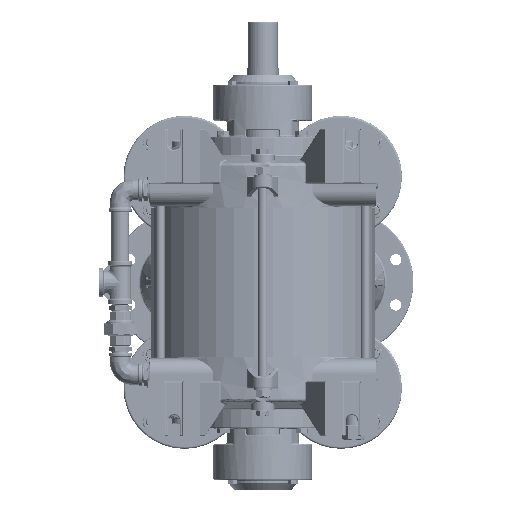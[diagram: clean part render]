
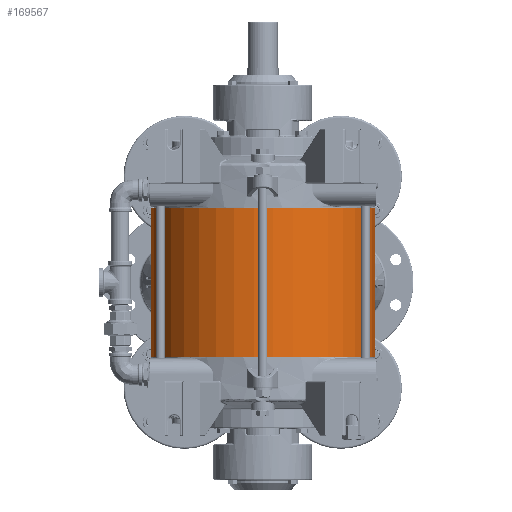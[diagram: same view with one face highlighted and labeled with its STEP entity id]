
A CAD part, front view. The second image highlights one B-rep face of the part: STEP entity #169567.
In plain terms, the highlighted cylindrical face has radius 171 mm (diameter 342 mm), a partial arc.
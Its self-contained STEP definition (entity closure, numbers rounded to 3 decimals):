
#4525 = CARTESIAN_POINT ( 'NONE',  ( 325.283, 1402.51, -824.495 ) ) ;
#6267 = EDGE_CURVE ( 'NONE', #247611, #90735, #172778, .T. ) ;
#8724 = DIRECTION ( 'NONE',  ( -0.997, 0.079, 0. ) ) ;
#11406 = VERTEX_POINT ( 'NONE', #4525 ) ;
#20116 = CARTESIAN_POINT ( 'NONE',  ( 666.208, 1375.41, -824.495 ) ) ;
#25778 = DIRECTION ( 'NONE',  ( 0., 0., 1. ) ) ;
#41744 = LINE ( 'NONE', #232634, #199033 ) ;
#45017 = ORIENTED_EDGE ( 'NONE', *, *, #242849, .T. ) ;
#67937 = AXIS2_PLACEMENT_3D ( 'NONE', #93674, #171097, #151711 ) ;
#73076 = DIRECTION ( 'NONE',  ( 0., 0., -1. ) ) ;
#73168 = VERTEX_POINT ( 'NONE', #20116 ) ;
#74468 = ORIENTED_EDGE ( 'NONE', *, *, #6267, .F. ) ;
#85042 = CARTESIAN_POINT ( 'NONE',  ( 495.746, 1388.96, -598.995 ) ) ;
#90735 = VERTEX_POINT ( 'NONE', #174172 ) ;
#91789 = CARTESIAN_POINT ( 'NONE',  ( 325.283, 1402.51, -598.995 ) ) ;
#93674 = CARTESIAN_POINT ( 'NONE',  ( 495.746, 1388.96, -824.495 ) ) ;
#98022 = EDGE_CURVE ( 'NONE', #90735, #73168, #248391, .T. ) ;
#104372 = DIRECTION ( 'NONE',  ( 0.997, -0.079, 0. ) ) ;
#104732 = EDGE_LOOP ( 'NONE', ( #112635, #74468, #116214, #45017 ) ) ;
#104792 = AXIS2_PLACEMENT_3D ( 'NONE', #247105, #147870, #8724 ) ;
#109202 = CYLINDRICAL_SURFACE ( 'NONE', #104792, 171. ) ;
#112635 = ORIENTED_EDGE ( 'NONE', *, *, #98022, .F. ) ;
#116214 = ORIENTED_EDGE ( 'NONE', *, *, #228258, .T. ) ;
#145330 = FACE_OUTER_BOUND ( 'NONE', #104732, .T. ) ;
#147870 = DIRECTION ( 'NONE',  ( 0., 0., -1. ) ) ;
#151711 = DIRECTION ( 'NONE',  ( 0.997, -0.079, 0. ) ) ;
#156388 = AXIS2_PLACEMENT_3D ( 'NONE', #85042, #25778, #104372 ) ;
#169567 = ADVANCED_FACE ( 'NONE', ( #145330 ), #109202, .T. ) ;
#171097 = DIRECTION ( 'NONE',  ( 0., 0., 1. ) ) ;
#172778 = CIRCLE ( 'NONE', #156388, 171. ) ;
#174172 = CARTESIAN_POINT ( 'NONE',  ( 666.208, 1375.41, -598.995 ) ) ;
#179071 = CIRCLE ( 'NONE', #67937, 171. ) ;
#199033 = VECTOR ( 'NONE', #236438, 1000. ) ;
#228258 = EDGE_CURVE ( 'NONE', #247611, #11406, #41744, .T. ) ;
#232634 = CARTESIAN_POINT ( 'NONE',  ( 325.283, 1402.51, -598.995 ) ) ;
#236438 = DIRECTION ( 'NONE',  ( 0., 0., -1. ) ) ;
#240737 = VECTOR ( 'NONE', #73076, 1000. ) ;
#242849 = EDGE_CURVE ( 'NONE', #11406, #73168, #179071, .T. ) ;
#247105 = CARTESIAN_POINT ( 'NONE',  ( 495.746, 1388.96, -598.995 ) ) ;
#247611 = VERTEX_POINT ( 'NONE', #91789 ) ;
#248391 = LINE ( 'NONE', #249666, #240737 ) ;
#249666 = CARTESIAN_POINT ( 'NONE',  ( 666.208, 1375.41, -598.995 ) ) ;
